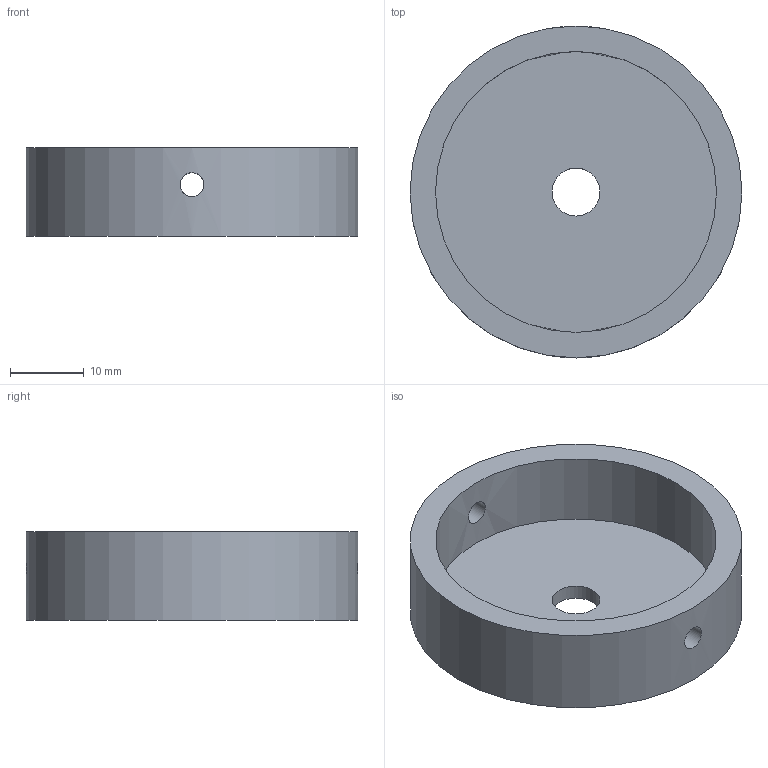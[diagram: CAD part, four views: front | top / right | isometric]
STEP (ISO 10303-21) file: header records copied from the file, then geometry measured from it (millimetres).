
FILE_DESCRIPTION(/* description */ (''),/* implementation_level */ '2;1');
FILE_NAME(/* name */ '',/* time_stamp */ '2026-05-15T16:09:42+08:00',/* author */ ('32769'),/* organization */ (''),/* preprocessor_version */ 'ST-DEVELOPER v20',/* originating_system */ 'Autodesk Inventor 2025',/* authorisation */ '');
FILE_SCHEMA (('AUTOMOTIVE_DESIGN { 1 0 10303 214 3 1 1 }'));
Length unit declared in the file: millimetre
Products named in the file (1): antenna-resonator-螺纹
Bounding box: 45 x 45 x 12 mm (x, y, z)
Volume: 7560.8 mm3; surface area: 6086.1 mm2
Topology: 1 solids, 1 shells, 8 faces, 22 edges, 19 vertices
Faces by surface type: cylinder 5, plane 3
Full cylindrical faces by diameter (mm): 3.242 x2, 6.5 x1, 38.1 x1, 45 x1
Entity records: 456 total; most frequent: CARTESIAN_POINT 186, ORIENTED_EDGE 40, DIRECTION 39, EDGE_CURVE 20, AXIS2_PLACEMENT_3D 17, EDGE_LOOP 15, VERTEX_POINT 15, B_SPLINE_CURVE_WITH_KNOTS 9
